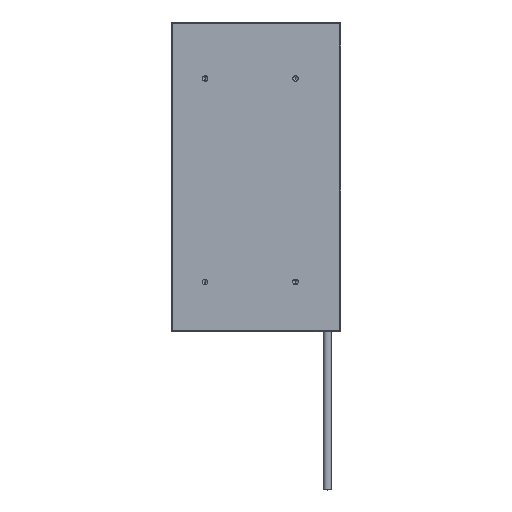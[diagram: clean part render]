
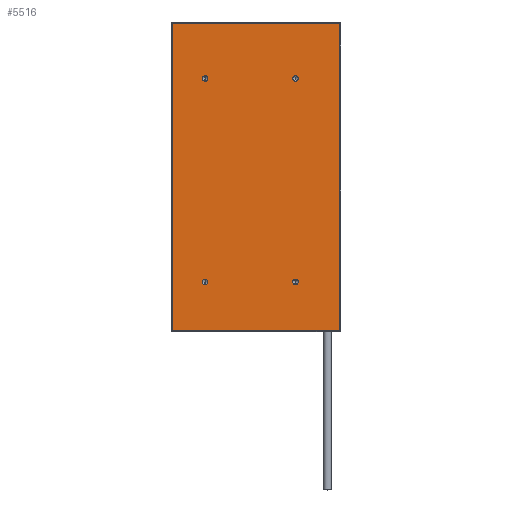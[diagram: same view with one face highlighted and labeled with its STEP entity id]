
A CAD part, top view. The second image highlights one B-rep face of the part: STEP entity #5516.
In plain terms, the highlighted planar face has unit normal (0, 0, 1).
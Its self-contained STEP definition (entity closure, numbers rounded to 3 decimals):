
#448=DIRECTION('',(1.,0.,0.));
#449=VECTOR('',#448,74.);
#450=CARTESIAN_POINT('',(-6.5,-46.5,4.));
#451=LINE('',#450,#449);
#456=DIRECTION('',(0.,1.,0.));
#457=VECTOR('',#456,136.);
#458=CARTESIAN_POINT('',(-6.5,-46.5,4.));
#459=LINE('',#458,#457);
#460=DIRECTION('',(1.,0.,0.));
#461=VECTOR('',#460,74.);
#462=CARTESIAN_POINT('',(-6.5,89.5,4.));
#463=LINE('',#462,#461);
#464=DIRECTION('',(0.,-1.,0.));
#465=VECTOR('',#464,136.);
#466=CARTESIAN_POINT('',(67.5,89.5,4.));
#467=LINE('',#466,#465);
#468=CARTESIAN_POINT('',(48.,65.,4.));
#469=DIRECTION('',(0.,0.,1.));
#470=DIRECTION('',(0.,-1.,0.));
#471=AXIS2_PLACEMENT_3D('',#468,#469,#470);
#473=CARTESIAN_POINT('',(48.,65.,4.));
#474=DIRECTION('',(0.,0.,1.));
#475=DIRECTION('',(0.,1.,0.));
#476=AXIS2_PLACEMENT_3D('',#473,#474,#475);
#478=CARTESIAN_POINT('',(8.,-25.,4.));
#479=DIRECTION('',(0.,0.,1.));
#480=DIRECTION('',(0.,-1.,0.));
#481=AXIS2_PLACEMENT_3D('',#478,#479,#480);
#483=CARTESIAN_POINT('',(8.,-25.,4.));
#484=DIRECTION('',(0.,0.,1.));
#485=DIRECTION('',(0.,1.,0.));
#486=AXIS2_PLACEMENT_3D('',#483,#484,#485);
#488=CARTESIAN_POINT('',(8.,65.,4.));
#489=DIRECTION('',(0.,0.,1.));
#490=DIRECTION('',(0.,-1.,0.));
#491=AXIS2_PLACEMENT_3D('',#488,#489,#490);
#493=CARTESIAN_POINT('',(8.,65.,4.));
#494=DIRECTION('',(0.,0.,1.));
#495=DIRECTION('',(0.,1.,0.));
#496=AXIS2_PLACEMENT_3D('',#493,#494,#495);
#498=CARTESIAN_POINT('',(48.,-25.,4.));
#499=DIRECTION('',(0.,0.,1.));
#500=DIRECTION('',(0.,-1.,0.));
#501=AXIS2_PLACEMENT_3D('',#498,#499,#500);
#503=CARTESIAN_POINT('',(48.,-25.,4.));
#504=DIRECTION('',(0.,0.,1.));
#505=DIRECTION('',(0.,1.,0.));
#506=AXIS2_PLACEMENT_3D('',#503,#504,#505);
#4740=CARTESIAN_POINT('',(-6.5,-46.5,4.));
#4741=CARTESIAN_POINT('',(67.5,-46.5,4.));
#4742=VERTEX_POINT('',#4740);
#4743=VERTEX_POINT('',#4741);
#4746=CARTESIAN_POINT('',(-6.5,89.5,4.));
#4747=VERTEX_POINT('',#4746);
#4748=CARTESIAN_POINT('',(67.5,89.5,4.));
#4749=VERTEX_POINT('',#4748);
#4750=CARTESIAN_POINT('',(48.,63.75,4.));
#4751=CARTESIAN_POINT('',(48.,66.25,4.));
#4752=VERTEX_POINT('',#4750);
#4753=VERTEX_POINT('',#4751);
#4754=CARTESIAN_POINT('',(8.,-26.25,4.));
#4755=CARTESIAN_POINT('',(8.,-23.75,4.));
#4756=VERTEX_POINT('',#4754);
#4757=VERTEX_POINT('',#4755);
#4758=CARTESIAN_POINT('',(8.,63.75,4.));
#4759=CARTESIAN_POINT('',(8.,66.25,4.));
#4760=VERTEX_POINT('',#4758);
#4761=VERTEX_POINT('',#4759);
#4762=CARTESIAN_POINT('',(48.,-26.25,4.));
#4763=CARTESIAN_POINT('',(48.,-23.75,4.));
#4764=VERTEX_POINT('',#4762);
#4765=VERTEX_POINT('',#4763);
#5478=CARTESIAN_POINT('',(63.,90.,4.));
#5479=DIRECTION('',(0.,0.,1.));
#5480=DIRECTION('',(0.,-1.,0.));
#5481=AXIS2_PLACEMENT_3D('',#5478,#5479,#5480);
#5482=PLANE('',#5481);
#5484=ORIENTED_EDGE('',*,*,#5483,.T.);
#5486=ORIENTED_EDGE('',*,*,#5485,.T.);
#5488=ORIENTED_EDGE('',*,*,#5487,.T.);
#5489=ORIENTED_EDGE('',*,*,#5463,.F.);
#5490=EDGE_LOOP('',(#5484,#5486,#5488,#5489));
#5491=FACE_OUTER_BOUND('',#5490,.F.);
#5493=ORIENTED_EDGE('',*,*,#5492,.T.);
#5495=ORIENTED_EDGE('',*,*,#5494,.T.);
#5496=EDGE_LOOP('',(#5493,#5495));
#5497=FACE_BOUND('',#5496,.F.);
#5499=ORIENTED_EDGE('',*,*,#5498,.T.);
#5501=ORIENTED_EDGE('',*,*,#5500,.T.);
#5502=EDGE_LOOP('',(#5499,#5501));
#5503=FACE_BOUND('',#5502,.F.);
#5505=ORIENTED_EDGE('',*,*,#5504,.T.);
#5507=ORIENTED_EDGE('',*,*,#5506,.T.);
#5508=EDGE_LOOP('',(#5505,#5507));
#5509=FACE_BOUND('',#5508,.F.);
#5511=ORIENTED_EDGE('',*,*,#5510,.T.);
#5513=ORIENTED_EDGE('',*,*,#5512,.T.);
#5514=EDGE_LOOP('',(#5511,#5513));
#5515=FACE_BOUND('',#5514,.F.);
#472=CIRCLE('',#471,1.25);
#477=CIRCLE('',#476,1.25);
#482=CIRCLE('',#481,1.25);
#487=CIRCLE('',#486,1.25);
#492=CIRCLE('',#491,1.25);
#497=CIRCLE('',#496,1.25);
#502=CIRCLE('',#501,1.25);
#507=CIRCLE('',#506,1.25);
#5463=EDGE_CURVE('',#4742,#4743,#451,.T.);
#5483=EDGE_CURVE('',#4742,#4747,#459,.T.);
#5485=EDGE_CURVE('',#4747,#4749,#463,.T.);
#5487=EDGE_CURVE('',#4749,#4743,#467,.T.);
#5492=EDGE_CURVE('',#4752,#4753,#472,.T.);
#5494=EDGE_CURVE('',#4753,#4752,#477,.T.);
#5498=EDGE_CURVE('',#4756,#4757,#482,.T.);
#5500=EDGE_CURVE('',#4757,#4756,#487,.T.);
#5504=EDGE_CURVE('',#4760,#4761,#492,.T.);
#5506=EDGE_CURVE('',#4761,#4760,#497,.T.);
#5510=EDGE_CURVE('',#4764,#4765,#502,.T.);
#5512=EDGE_CURVE('',#4765,#4764,#507,.T.);
#5516=ADVANCED_FACE('',(#5491,#5497,#5503,#5509,#5515),#5482,.T.);
